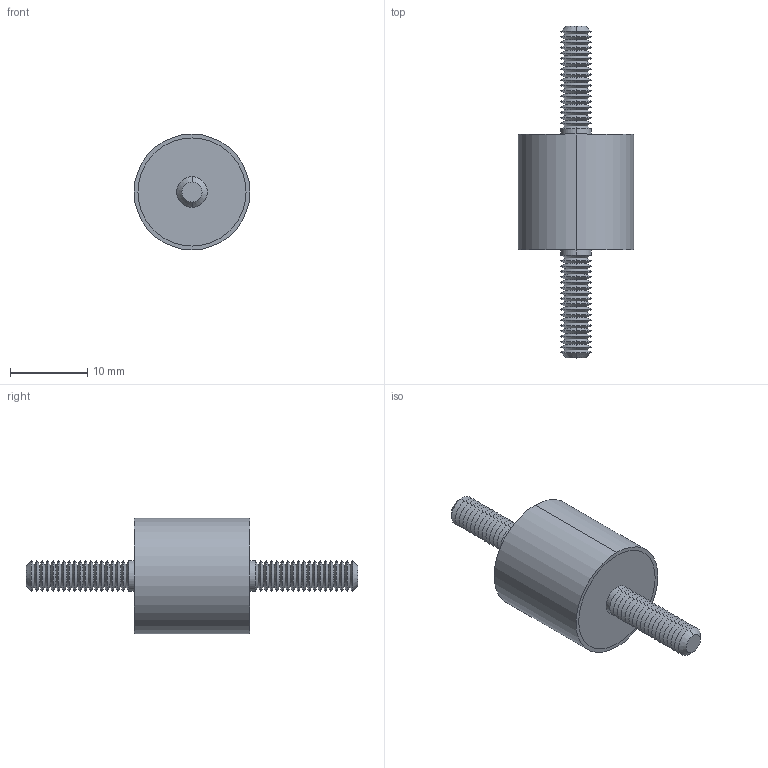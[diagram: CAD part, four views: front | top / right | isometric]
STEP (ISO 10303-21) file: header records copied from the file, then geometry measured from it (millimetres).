
FILE_DESCRIPTION (( 'STEP AP203' ), '1' );
FILE_NAME ('61040.W0153.step', '2019-09-24T22:24:06', ( '' ), ( '' ), 'SwSTEP 2.0', 'SolidWorks 2017', '' );
FILE_SCHEMA (( 'CONFIG_CONTROL_DESIGN' ));
Length unit declared in the file: millimetre
Products named in the file (4): 61040.W0153; Part1_61040.W0153; Part3_61040.W0153; Part2_61040.W0153
Assembly tree (3 placements, depth 2):
  61040.W0153
    Part1_61040.W0153
    Part2_61040.W0153
    Part3_61040.W0153
Bounding box: 15 x 43 x 15 mm (x, y, z)
Volume: 2910.8 mm3; surface area: 2325 mm2
Topology: 3 solids, 3 shells, 172 faces, 338 edges, 176 vertices
Faces by surface type: cone 148, cylinder 14, plane 10
Entity records: 4708 total; most frequent: DIRECTION 870, CARTESIAN_POINT 692, ORIENTED_EDGE 676, AXIS2_PLACEMENT_3D 354, EDGE_CURVE 338, VERTEX_POINT 176, CIRCLE 176, EDGE_LOOP 176
